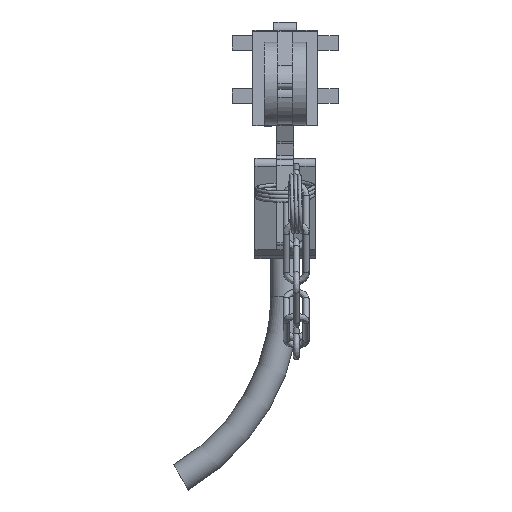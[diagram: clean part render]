
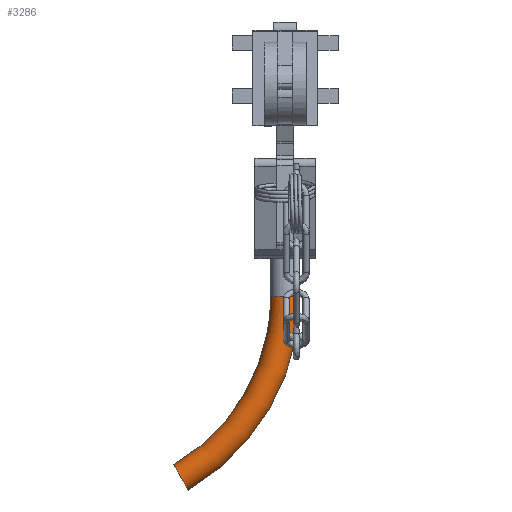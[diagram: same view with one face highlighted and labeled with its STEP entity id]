
A CAD part, top view. The second image highlights one B-rep face of the part: STEP entity #3286.
In plain terms, the highlighted toroidal (fillet/blend) face has major radius 100 mm and minor radius 7 mm.
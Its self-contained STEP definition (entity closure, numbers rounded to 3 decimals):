
#118=TOROIDAL_SURFACE('',#3522,100.,7.);
#293=CIRCLE('',#3521,7.);
#294=CIRCLE('',#3523,7.);
#1393=ORIENTED_EDGE('',*,*,#1728,.F.);
#1394=ORIENTED_EDGE('',*,*,#1727,.T.);
#1727=EDGE_CURVE('',#1940,#1940,#293,.T.);
#1728=EDGE_CURVE('',#1941,#1941,#294,.T.);
#1940=VERTEX_POINT('',#5165);
#1941=VERTEX_POINT('',#5168);
#2100=EDGE_LOOP('',(#1393));
#2101=EDGE_LOOP('',(#1394));
#2258=FACE_BOUND('',#2100,.T.);
#2259=FACE_BOUND('',#2101,.T.);
#3286=ADVANCED_FACE('',(#2258,#2259),#118,.T.);
#3521=AXIS2_PLACEMENT_3D('',#5164,#4184,#4185);
#3522=AXIS2_PLACEMENT_3D('',#5166,#4186,#4187);
#3523=AXIS2_PLACEMENT_3D('',#5167,#4188,#4189);
#4184=DIRECTION('',(0.,0.,-1.));
#4185=DIRECTION('',(1.,0.,0.));
#4186=DIRECTION('',(1.,0.,0.));
#4187=DIRECTION('',(0.,0.,-1.));
#4188=DIRECTION('',(0.,-0.866,-0.5));
#4189=DIRECTION('',(0.,0.5,-0.866));
#5164=CARTESIAN_POINT('',(0.,0.,-75.));
#5165=CARTESIAN_POINT('',(7.,0.,-75.));
#5166=CARTESIAN_POINT('',(0.,-100.,-75.));
#5167=CARTESIAN_POINT('',(0.,-50.,-161.603));
#5168=CARTESIAN_POINT('',(0.,-46.5,-167.665));
